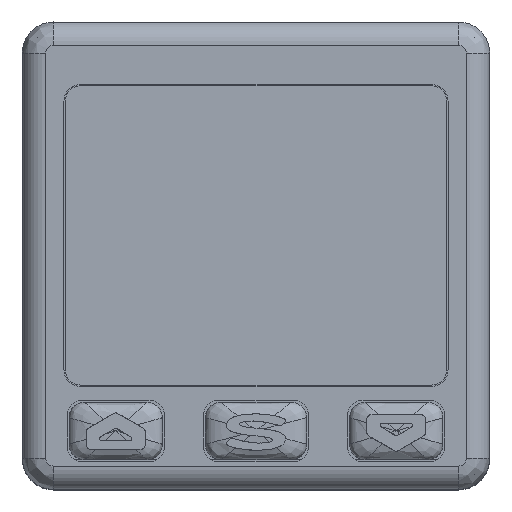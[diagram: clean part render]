
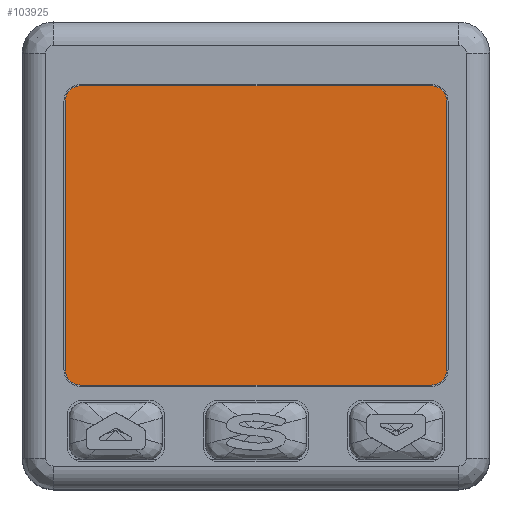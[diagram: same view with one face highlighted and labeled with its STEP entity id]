
A CAD part, top view. The second image highlights one B-rep face of the part: STEP entity #103925.
In plain terms, the highlighted planar face has unit normal (0, 0, 1).
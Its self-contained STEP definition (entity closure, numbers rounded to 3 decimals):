
#29056=DIRECTION('',(0.,1.,0.));
#29057=VECTOR('',#29056,17.2);
#29058=CARTESIAN_POINT('',(12.33,-7.3,21.1));
#29059=LINE('',#29058,#29057);
#29060=CARTESIAN_POINT('',(11.25,-7.3,21.1));
#29061=DIRECTION('',(0.,0.,-1.));
#29062=DIRECTION('',(1.,0.,0.));
#29063=AXIS2_PLACEMENT_3D('',#29060,#29061,#29062);
#29065=DIRECTION('',(1.,0.,0.));
#29066=VECTOR('',#29065,22.5);
#29067=CARTESIAN_POINT('',(-11.25,-8.38,21.1));
#29068=LINE('',#29067,#29066);
#29069=CARTESIAN_POINT('',(-11.25,-7.3,21.1));
#29070=DIRECTION('',(0.,0.,-1.));
#29071=DIRECTION('',(0.,-1.,0.));
#29072=AXIS2_PLACEMENT_3D('',#29069,#29070,#29071);
#29074=DIRECTION('',(0.,1.,0.));
#29075=VECTOR('',#29074,17.2);
#29076=CARTESIAN_POINT('',(-12.33,-7.3,21.1));
#29077=LINE('',#29076,#29075);
#29078=CARTESIAN_POINT('',(-11.25,9.9,21.1));
#29079=DIRECTION('',(0.,0.,-1.));
#29080=DIRECTION('',(-1.,0.,0.));
#29081=AXIS2_PLACEMENT_3D('',#29078,#29079,#29080);
#29083=DIRECTION('',(1.,0.,0.));
#29084=VECTOR('',#29083,22.5);
#29085=CARTESIAN_POINT('',(-11.25,10.98,21.1));
#29086=LINE('',#29085,#29084);
#29087=CARTESIAN_POINT('',(11.25,9.9,21.1));
#29088=DIRECTION('',(0.,0.,-1.));
#29089=DIRECTION('',(0.,1.,0.));
#29090=AXIS2_PLACEMENT_3D('',#29087,#29088,#29089);
#62688=CARTESIAN_POINT('',(12.33,-7.3,21.1));
#62689=CARTESIAN_POINT('',(12.33,9.9,21.1));
#62690=VERTEX_POINT('',#62688);
#62691=VERTEX_POINT('',#62689);
#62692=CARTESIAN_POINT('',(-11.25,10.98,21.1));
#62693=CARTESIAN_POINT('',(11.25,10.98,21.1));
#62694=VERTEX_POINT('',#62692);
#62695=VERTEX_POINT('',#62693);
#62696=CARTESIAN_POINT('',(11.25,-8.38,21.1));
#62697=VERTEX_POINT('',#62696);
#62698=CARTESIAN_POINT('',(-12.33,-7.3,21.1));
#62699=CARTESIAN_POINT('',(-12.33,9.9,21.1));
#62700=VERTEX_POINT('',#62698);
#62701=VERTEX_POINT('',#62699);
#62702=CARTESIAN_POINT('',(-11.25,-8.38,21.1));
#62703=VERTEX_POINT('',#62702);
#103903=CARTESIAN_POINT('',(0.,2.5,21.1));
#103904=DIRECTION('',(0.,0.,1.));
#103905=DIRECTION('',(1.,0.,0.));
#103906=AXIS2_PLACEMENT_3D('',#103903,#103904,#103905);
#103907=PLANE('',#103906);
#103909=ORIENTED_EDGE('',*,*,#103908,.F.);
#103911=ORIENTED_EDGE('',*,*,#103910,.T.);
#103913=ORIENTED_EDGE('',*,*,#103912,.F.);
#103915=ORIENTED_EDGE('',*,*,#103914,.T.);
#103916=ORIENTED_EDGE('',*,*,#103893,.T.);
#103918=ORIENTED_EDGE('',*,*,#103917,.T.);
#103920=ORIENTED_EDGE('',*,*,#103919,.T.);
#103922=ORIENTED_EDGE('',*,*,#103921,.T.);
#103923=EDGE_LOOP('',(#103909,#103911,#103913,#103915,#103916,#103918,#103920,
#103922));
#103924=FACE_OUTER_BOUND('',#103923,.F.);
#103925=ADVANCED_FACE('',(#103924),#103907,.T.);
#29064=CIRCLE('',#29063,1.08);
#29073=CIRCLE('',#29072,1.08);
#29082=CIRCLE('',#29081,1.08);
#29091=CIRCLE('',#29090,1.08);
#103893=EDGE_CURVE('',#62700,#62701,#29077,.T.);
#103908=EDGE_CURVE('',#62690,#62691,#29059,.T.);
#103910=EDGE_CURVE('',#62690,#62697,#29064,.T.);
#103912=EDGE_CURVE('',#62703,#62697,#29068,.T.);
#103914=EDGE_CURVE('',#62703,#62700,#29073,.T.);
#103917=EDGE_CURVE('',#62701,#62694,#29082,.T.);
#103919=EDGE_CURVE('',#62694,#62695,#29086,.T.);
#103921=EDGE_CURVE('',#62695,#62691,#29091,.T.);
